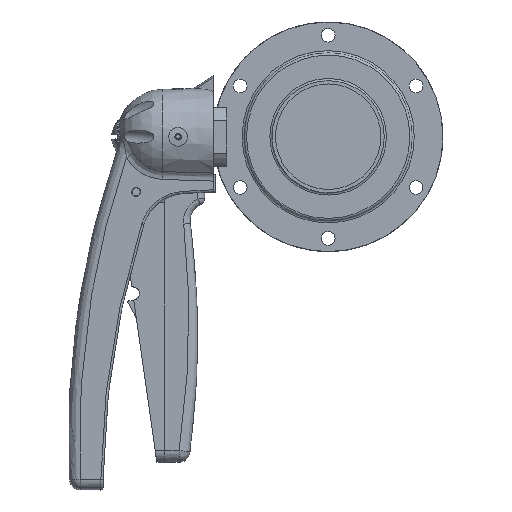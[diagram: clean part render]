
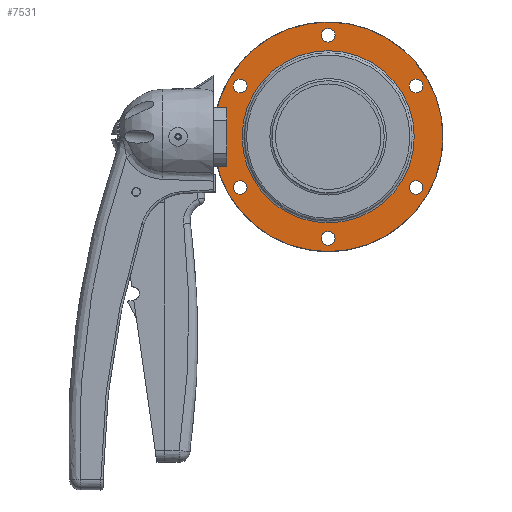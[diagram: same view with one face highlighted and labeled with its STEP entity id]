
A CAD part, top view. The second image highlights one B-rep face of the part: STEP entity #7531.
In plain terms, the highlighted planar face has unit normal (0, 0, 1).
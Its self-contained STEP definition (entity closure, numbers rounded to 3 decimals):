
#570=FACE_BOUND('',#1476,.T.);
#571=FACE_BOUND('',#1477,.T.);
#572=FACE_BOUND('',#1478,.T.);
#573=FACE_BOUND('',#1479,.T.);
#574=FACE_BOUND('',#1480,.T.);
#575=FACE_BOUND('',#1481,.T.);
#576=FACE_BOUND('',#1482,.T.);
#612=PLANE('',#8084);
#1042=FACE_OUTER_BOUND('',#1475,.T.);
#1475=EDGE_LOOP('',(#5256,#5257));
#1476=EDGE_LOOP('',(#5258,#5259));
#1477=EDGE_LOOP('',(#5260,#5261));
#1478=EDGE_LOOP('',(#5262,#5263));
#1479=EDGE_LOOP('',(#5264,#5265));
#1480=EDGE_LOOP('',(#5266,#5267));
#1481=EDGE_LOOP('',(#5268,#5269));
#1482=EDGE_LOOP('',(#5270,#5271));
#2985=CIRCLE('',#8020,3.1);
#2986=CIRCLE('',#8021,3.1);
#2988=CIRCLE('',#8024,3.1);
#2989=CIRCLE('',#8025,3.1);
#2991=CIRCLE('',#8028,3.1);
#2992=CIRCLE('',#8029,3.1);
#2994=CIRCLE('',#8032,3.1);
#2995=CIRCLE('',#8033,3.1);
#2997=CIRCLE('',#8036,3.1);
#2998=CIRCLE('',#8037,3.1);
#3000=CIRCLE('',#8040,3.1);
#3001=CIRCLE('',#8041,3.1);
#3029=CIRCLE('',#8082,39.);
#3030=CIRCLE('',#8083,39.);
#3031=CIRCLE('',#8085,52.);
#3032=CIRCLE('',#8086,52.);
#3292=VERTEX_POINT('',#10642);
#3293=VERTEX_POINT('',#10643);
#3295=VERTEX_POINT('',#10650);
#3296=VERTEX_POINT('',#10651);
#3298=VERTEX_POINT('',#10658);
#3299=VERTEX_POINT('',#10659);
#3301=VERTEX_POINT('',#10666);
#3302=VERTEX_POINT('',#10667);
#3304=VERTEX_POINT('',#10674);
#3305=VERTEX_POINT('',#10675);
#3307=VERTEX_POINT('',#10682);
#3308=VERTEX_POINT('',#10683);
#3335=VERTEX_POINT('',#10777);
#3336=VERTEX_POINT('',#10779);
#3337=VERTEX_POINT('',#10783);
#3338=VERTEX_POINT('',#10784);
#4021=EDGE_CURVE('',#3292,#3293,#2985,.T.);
#4022=EDGE_CURVE('',#3293,#3292,#2986,.T.);
#4025=EDGE_CURVE('',#3295,#3296,#2988,.T.);
#4026=EDGE_CURVE('',#3296,#3295,#2989,.T.);
#4029=EDGE_CURVE('',#3298,#3299,#2991,.T.);
#4030=EDGE_CURVE('',#3299,#3298,#2992,.T.);
#4033=EDGE_CURVE('',#3301,#3302,#2994,.T.);
#4034=EDGE_CURVE('',#3302,#3301,#2995,.T.);
#4037=EDGE_CURVE('',#3304,#3305,#2997,.T.);
#4038=EDGE_CURVE('',#3305,#3304,#2998,.T.);
#4041=EDGE_CURVE('',#3307,#3308,#3000,.T.);
#4042=EDGE_CURVE('',#3308,#3307,#3001,.T.);
#4079=EDGE_CURVE('',#3336,#3335,#3029,.T.);
#4080=EDGE_CURVE('',#3335,#3336,#3030,.T.);
#4081=EDGE_CURVE('',#3337,#3338,#3031,.T.);
#4082=EDGE_CURVE('',#3338,#3337,#3032,.T.);
#5256=ORIENTED_EDGE('',*,*,#4081,.F.);
#5257=ORIENTED_EDGE('',*,*,#4082,.F.);
#5258=ORIENTED_EDGE('',*,*,#4021,.T.);
#5259=ORIENTED_EDGE('',*,*,#4022,.T.);
#5260=ORIENTED_EDGE('',*,*,#4025,.T.);
#5261=ORIENTED_EDGE('',*,*,#4026,.T.);
#5262=ORIENTED_EDGE('',*,*,#4029,.T.);
#5263=ORIENTED_EDGE('',*,*,#4030,.T.);
#5264=ORIENTED_EDGE('',*,*,#4033,.T.);
#5265=ORIENTED_EDGE('',*,*,#4034,.T.);
#5266=ORIENTED_EDGE('',*,*,#4037,.T.);
#5267=ORIENTED_EDGE('',*,*,#4038,.T.);
#5268=ORIENTED_EDGE('',*,*,#4041,.T.);
#5269=ORIENTED_EDGE('',*,*,#4042,.T.);
#5270=ORIENTED_EDGE('',*,*,#4079,.T.);
#5271=ORIENTED_EDGE('',*,*,#4080,.T.);
#7531=ADVANCED_FACE('',(#1042,#570,#571,#572,#573,#574,#575,#576),#612,
 .T.);
#8020=AXIS2_PLACEMENT_3D('',#10644,#8719,#8720);
#8021=AXIS2_PLACEMENT_3D('',#10645,#8721,#8722);
#8024=AXIS2_PLACEMENT_3D('',#10652,#8728,#8729);
#8025=AXIS2_PLACEMENT_3D('',#10653,#8730,#8731);
#8028=AXIS2_PLACEMENT_3D('',#10660,#8737,#8738);
#8029=AXIS2_PLACEMENT_3D('',#10661,#8739,#8740);
#8032=AXIS2_PLACEMENT_3D('',#10668,#8746,#8747);
#8033=AXIS2_PLACEMENT_3D('',#10669,#8748,#8749);
#8036=AXIS2_PLACEMENT_3D('',#10676,#8755,#8756);
#8037=AXIS2_PLACEMENT_3D('',#10677,#8757,#8758);
#8040=AXIS2_PLACEMENT_3D('',#10684,#8764,#8765);
#8041=AXIS2_PLACEMENT_3D('',#10685,#8766,#8767);
#8082=AXIS2_PLACEMENT_3D('',#10780,#8856,#8857);
#8083=AXIS2_PLACEMENT_3D('',#10781,#8858,#8859);
#8084=AXIS2_PLACEMENT_3D('',#10782,#8860,#8861);
#8085=AXIS2_PLACEMENT_3D('',#10785,#8862,#8863);
#8086=AXIS2_PLACEMENT_3D('',#10786,#8864,#8865);
#8719=DIRECTION('center_axis',(0.,0.,-1.));
#8720=DIRECTION('ref_axis',(0.5,0.866,0.));
#8721=DIRECTION('center_axis',(0.,0.,-1.));
#8722=DIRECTION('ref_axis',(0.5,0.866,0.));
#8728=DIRECTION('center_axis',(0.,0.,-1.));
#8729=DIRECTION('ref_axis',(-0.5,0.866,0.));
#8730=DIRECTION('center_axis',(0.,0.,-1.));
#8731=DIRECTION('ref_axis',(-0.5,0.866,0.));
#8737=DIRECTION('center_axis',(0.,0.,-1.));
#8738=DIRECTION('ref_axis',(-1.,0.,0.));
#8739=DIRECTION('center_axis',(0.,0.,-1.));
#8740=DIRECTION('ref_axis',(-1.,0.,0.));
#8746=DIRECTION('center_axis',(0.,0.,-1.));
#8747=DIRECTION('ref_axis',(-0.5,-0.866,0.));
#8748=DIRECTION('center_axis',(0.,0.,-1.));
#8749=DIRECTION('ref_axis',(-0.5,-0.866,0.));
#8755=DIRECTION('center_axis',(0.,0.,-1.));
#8756=DIRECTION('ref_axis',(0.5,-0.866,0.));
#8757=DIRECTION('center_axis',(0.,0.,-1.));
#8758=DIRECTION('ref_axis',(0.5,-0.866,0.));
#8764=DIRECTION('center_axis',(0.,0.,-1.));
#8765=DIRECTION('ref_axis',(1.,0.,0.));
#8766=DIRECTION('center_axis',(0.,0.,-1.));
#8767=DIRECTION('ref_axis',(1.,0.,0.));
#8856=DIRECTION('center_axis',(0.,0.,-1.));
#8857=DIRECTION('ref_axis',(0.,1.,0.));
#8858=DIRECTION('center_axis',(0.,0.,-1.));
#8859=DIRECTION('ref_axis',(0.,1.,0.));
#8860=DIRECTION('center_axis',(0.,0.,1.));
#8861=DIRECTION('ref_axis',(1.,0.,0.));
#8862=DIRECTION('center_axis',(0.,0.,-1.));
#8863=DIRECTION('ref_axis',(0.,1.,0.));
#8864=DIRECTION('center_axis',(0.,0.,-1.));
#8865=DIRECTION('ref_axis',(0.,1.,0.));
#10642=CARTESIAN_POINT('',(1.55,-43.315,10.));
#10643=CARTESIAN_POINT('',(-1.55,-48.685,10.));
#10644=CARTESIAN_POINT('Origin',(0.,-46.,10.));
#10645=CARTESIAN_POINT('Origin',(0.,-46.,10.));
#10650=CARTESIAN_POINT('',(38.287,-20.315,10.));
#10651=CARTESIAN_POINT('',(41.387,-25.685,10.));
#10652=CARTESIAN_POINT('Origin',(39.837,-23.,10.));
#10653=CARTESIAN_POINT('Origin',(39.837,-23.,10.));
#10658=CARTESIAN_POINT('',(36.737,23.,10.));
#10659=CARTESIAN_POINT('',(42.937,23.,10.));
#10660=CARTESIAN_POINT('Origin',(39.837,23.,10.));
#10661=CARTESIAN_POINT('Origin',(39.837,23.,10.));
#10666=CARTESIAN_POINT('',(-1.55,43.315,10.));
#10667=CARTESIAN_POINT('',(1.55,48.685,10.));
#10668=CARTESIAN_POINT('Origin',(0.,46.,
10.));
#10669=CARTESIAN_POINT('Origin',(0.,46.,
10.));
#10674=CARTESIAN_POINT('',(-38.287,20.315,10.));
#10675=CARTESIAN_POINT('',(-41.387,25.685,10.));
#10676=CARTESIAN_POINT('Origin',(-39.837,23.,10.));
#10677=CARTESIAN_POINT('Origin',(-39.837,23.,10.));
#10682=CARTESIAN_POINT('',(-36.737,-23.,10.));
#10683=CARTESIAN_POINT('',(-42.937,-23.,10.));
#10684=CARTESIAN_POINT('Origin',(-39.837,-23.,10.));
#10685=CARTESIAN_POINT('Origin',(-39.837,-23.,10.));
#10777=CARTESIAN_POINT('',(39.,0.,10.));
#10779=CARTESIAN_POINT('',(0.,39.,10.));
#10780=CARTESIAN_POINT('Origin',(0.,0.,10.));
#10781=CARTESIAN_POINT('Origin',(0.,0.,10.));
#10782=CARTESIAN_POINT('Origin',(0.,45.5,10.));
#10783=CARTESIAN_POINT('',(0.,52.,10.));
#10784=CARTESIAN_POINT('',(0.,-52.,10.));
#10785=CARTESIAN_POINT('Origin',(0.,0.,10.));
#10786=CARTESIAN_POINT('Origin',(0.,0.,10.));
